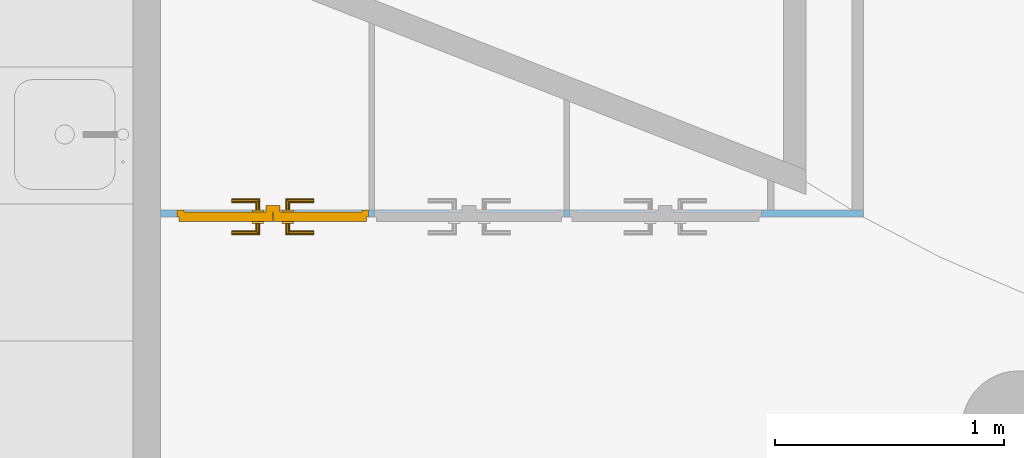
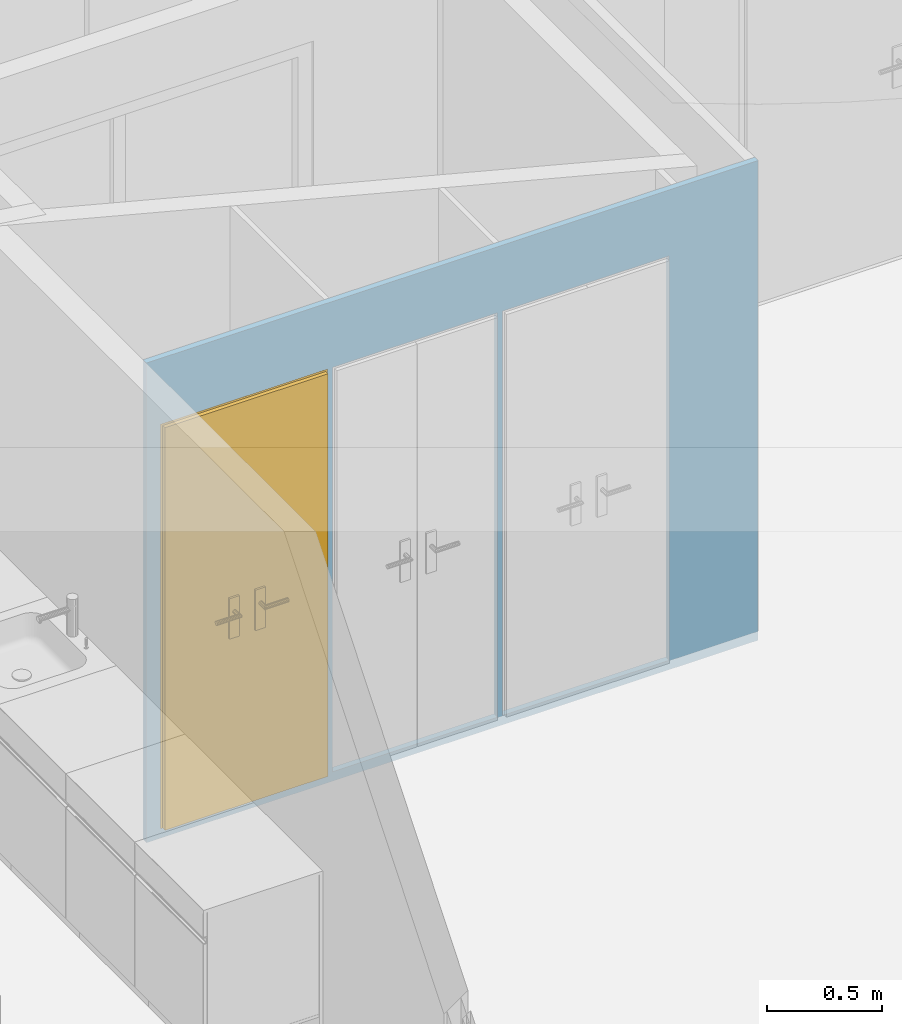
"""IFC4 building model written with IfcOpenShell, lengths in metres."""

from ifc_helpers import new_model, entity, si_unit, converted_unit, derived_unit, frame, frame_2d, origin, origin_with_axes, place, context, subcontext, project, spatial, polyline, rectangle, outline, extrude, faceted_brep, source, transform, mapped, material, layer, layer_set, layer_usage, element, fill, save


model = new_model("IFC4")

# Units and contexts
model_context = context("Model", 3, precision=1e-05, world=origin())
body_context = subcontext(model_context, "Body", "Model", "MODEL_VIEW")
ifc_project = project(units=[si_unit("LENGTHUNIT", "METRE"), si_unit("AREAUNIT", "SQUARE_METRE"), si_unit("VOLUMEUNIT", "CUBIC_METRE"), si_unit("MASSUNIT", "GRAM", prefix="KILO"), converted_unit("PLANEANGLEUNIT", "DEGREE", entity("IfcPlaneAngleMeasure", 0.0174532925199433), si_unit("PLANEANGLEUNIT", "RADIAN"), dimensions=[0, 0, 0, 0, 0, 0, 0]), derived_unit("THERMALTRANSMITTANCEUNIT", [(si_unit("POWERUNIT", "WATT"), 1), (si_unit("THERMODYNAMICTEMPERATUREUNIT", "KELVIN"), -1), (si_unit("LENGTHUNIT", "METRE"), -2)]), derived_unit("VOLUMETRICFLOWRATEUNIT", [(si_unit("LENGTHUNIT", "METRE"), 3), (converted_unit("TIMEUNIT", "hour", entity("IfcTimeMeasure", 3600.0), si_unit("TIMEUNIT", "SECOND"), dimensions=[0, 0, 1, 0, 0, 0, 0]), -1), (si_unit("LENGTHUNIT", "METRE"), -1)])], contexts=[model_context])

# Building, storeys
building_placement = place(None, origin())
building = spatial("IfcBuilding", under=ifc_project, at=building_placement, Name="HABITATGE PLURIFAMILIAR", CompositionType="ELEMENT")
storey_1_placement = place(building_placement, frame((0.0, 0.0, 3.35)))
storey_1 = spatial("IfcBuildingStorey", under=building, at=storey_1_placement, Name="PLANTA  ALTELL", CompositionType="ELEMENT", Elevation=3.35)
storey_2_placement = place(storey_1_placement, origin())
storey_2 = spatial("IfcBuildingStorey", under=storey_1, at=storey_2_placement, Name="NOU", CompositionType="PARTIAL")

# Wall, openings, door
ifc_material = material()
ifc_layer = layer(ifc_material, 0.03)
ifc_layer_set = layer_set([ifc_layer])
ifc_layer_usage = layer_usage(ifc_layer_set, "AXIS2", "POSITIVE", 0.0)
wall_placement = place(storey_2_placement, frame((406.991931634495, 22.0635846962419, -0.05)))
wall = element("IfcWall", 1, at=wall_placement, inside=storey_2, material=ifc_layer_usage, Name="Evans PA", context=body_context, shape_type="SweptSolid", body=[
    extrude(rectangle(XDim=3.07526201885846, YDim=0.03, at=frame_2d((1.53763100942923, 0.015), x_axis=(1.0, 0.0))), origin_with_axes(), (0.0, 0.0, 1.0), 2.55),
])
opening_1_placement = place(wall_placement, frame((0.935853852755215, 0.0, 0.05), z_axis=(0.0, 1.0, 0.0), x_axis=(0.0, 0.0, 1.0)))
element("IfcOpeningElement", 2, at=opening_1_placement, cuts=wall, Name="Vano de puerta PA", ObjectType="Opening", context=body_context, shape_type="SweptSolid", body=[
    extrude(outline(polyline([(2.15, 0.828330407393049), (2.15, 0.0), (0.0, 0.0), (0.0, 0.828330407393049), (2.15, 0.828330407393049)])), origin_with_axes(), (0.0, 0.0, 1.0), 0.03),
])
opening_2_placement = place(wall_placement, frame((1.78918426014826, 0.0, 0.05), z_axis=(0.0, 1.0, 0.0), x_axis=(0.0, 0.0, 1.0)))
element("IfcOpeningElement", 3, at=opening_2_placement, cuts=wall, Name="Vano de puerta PA", ObjectType="Opening", context=body_context, shape_type="SweptSolid", body=[
    extrude(outline(polyline([(2.15, 0.839188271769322), (2.15, 0.0), (0.0, 0.0), (0.0, 0.839188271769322), (2.15, 0.839188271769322)])), origin_with_axes(), (0.0, 0.0, 1.0), 0.03),
])
opening_3_placement = place(wall_placement, frame((0.0714767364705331, 0.0, 0.05), z_axis=(0.0, 1.0, 0.0), x_axis=(0.0, 0.0, 1.0)))
opening_3 = element("IfcOpeningElement", 4, at=opening_3_placement, cuts=wall, Name="Vano de puerta PA", ObjectType="Opening", context=body_context, shape_type="SweptSolid", body=[
    extrude(outline(polyline([(2.15, 0.839188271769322), (2.15, 0.0), (0.0, 0.0), (0.0, 0.839188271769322), (2.15, 0.839188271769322)])), origin_with_axes(), (0.0, 0.0, 1.0), 0.03),
])
shared_shape = source(origin_with_axes(), body_context, "Body", "Brep", [
    faceted_brep([(0.0, 0.03, 2.15), (0.0, 0.03, 0.0), (0.03, 0.03, 0.0), (0.03, 0.03, 2.15), (0.0, 0.0, 0.0), (0.0, 0.0, 2.15), (0.03, 0.0, 2.15), (0.03, 0.0, 0.0)], [[[0, 1, 2, 3]], [[4, 5, 6, 7]], [[1, 0, 5, 4]], [[2, 1, 4, 7]], [[3, 2, 7, 6]], [[0, 3, 6, 5]]], orient=[[False], [False], [False], [False], [False], [False]]),
    faceted_brep([(0.809188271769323, 0.03, 2.15), (0.809188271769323, 0.03, 0.0), (0.839188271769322, 0.03, 0.0), (0.839188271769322, 0.03, 2.15), (0.809188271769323, 0.0, 0.0), (0.809188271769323, 0.0, 2.15), (0.839188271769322, 0.0, 2.15), (0.839188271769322, 0.0, 0.0)], [[[0, 1, 2, 3]], [[4, 5, 6, 7]], [[1, 0, 5, 4]], [[2, 1, 4, 7]], [[3, 2, 7, 6]], [[0, 3, 6, 5]]], orient=[[False], [False], [False], [False], [False], [False]]),
    faceted_brep([(0.03, 0.03, 2.15), (0.03, 0.03, 2.12), (0.809188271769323, 0.03, 2.12), (0.809188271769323, 0.03, 2.15), (0.03, 0.0, 2.12), (0.03, 0.0, 2.15), (0.809188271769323, 0.0, 2.15), (0.809188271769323, 0.0, 2.12)], [[[0, 1, 2, 3]], [[4, 5, 6, 7]], [[1, 0, 5, 4]], [[2, 1, 4, 7]], [[3, 2, 7, 6]], [[0, 3, 6, 5]]], orient=[[False], [False], [False], [False], [False], [False]]),
    faceted_brep([(0.01, 0.05, 2.14), (0.01, 0.05, 0.0), (0.419094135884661, 0.05, 0.0), (0.419094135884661, 0.05, 2.14), (0.01, 0.01, 0.0), (0.01, 0.01, 2.14), (0.419094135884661, 0.01, 2.14), (0.419094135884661, 0.01, 0.0)], [[[0, 1, 2, 3]], [[4, 5, 6, 7]], [[1, 0, 5, 4]], [[2, 1, 4, 7]], [[3, 2, 7, 6]], [[0, 3, 6, 5]]], orient=[[False], [False], [False], [False], [False], [False]]),
    faceted_brep([(0.389094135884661, 0.01, 2.12), (0.389094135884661, 0.01, 0.0), (0.449094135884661, 0.01, 0.0), (0.449094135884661, 0.01, 2.12), (0.389094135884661, -0.02, 0.0), (0.389094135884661, -0.02, 2.12), (0.449094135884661, -0.02, 2.12), (0.449094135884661, -0.02, 0.0)], [[[0, 1, 2, 3]], [[4, 5, 6, 7]], [[1, 0, 5, 4]], [[2, 1, 4, 7]], [[3, 2, 7, 6]], [[0, 3, 6, 5]]], orient=[[False], [False], [False], [False], [False], [False]]),
    faceted_brep([(0.329094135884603, 0.01, 1.125), (0.329094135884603, 0.01, 0.91), (0.379094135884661, 0.01, 0.91), (0.379094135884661, 0.01, 1.125), (0.329094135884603, 0.0, 0.91), (0.329094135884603, 0.0, 1.125), (0.379094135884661, 0.0, 1.125), (0.379094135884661, 0.0, 0.91)], [[[0, 1, 2, 3]], [[4, 5, 6, 7]], [[1, 0, 5, 4]], [[2, 1, 4, 7]], [[3, 2, 7, 6]], [[0, 3, 6, 5]]], orient=[[False], [False], [False], [False], [False], [False]]),
    faceted_brep([(0.354094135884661, 0.0, 1.06), (0.349094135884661, 0.0, 1.05866025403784), (0.34543388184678, 0.0, 1.055), (0.344094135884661, 0.0, 1.05), (0.34543388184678, 0.0, 1.045), (0.349094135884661, 0.0, 1.04133974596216), (0.354094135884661, 0.0, 1.04), (0.359094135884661, 0.0, 1.04133974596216), (0.362754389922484, 0.0, 1.045), (0.364094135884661, 0.0, 1.05), (0.362754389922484, 0.0, 1.055), (0.359094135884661, 0.0, 1.05866025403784), (0.359094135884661, -0.045, 1.05866025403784), (0.354094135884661, -0.04, 1.06), (0.362754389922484, -0.0486602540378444, 1.055), (0.364094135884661, -0.05, 1.05), (0.362754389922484, -0.0486602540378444, 1.045), (0.359094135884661, -0.045, 1.04133974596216), (0.354094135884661, -0.04, 1.04), (0.349094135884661, -0.035, 1.04133974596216), (0.34543388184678, -0.0313397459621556, 1.045), (0.344094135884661, -0.03, 1.05), (0.34543388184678, -0.0313397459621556, 1.055), (0.349094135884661, -0.035, 1.05866025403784), (0.239094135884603, -0.04, 1.06), (0.239094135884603, -0.045, 1.05866025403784), (0.239094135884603, -0.0486602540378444, 1.055), (0.239094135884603, -0.05, 1.05), (0.239094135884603, -0.0486602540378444, 1.045), (0.239094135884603, -0.045, 1.04133974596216), (0.239094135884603, -0.04, 1.04), (0.239094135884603, -0.035, 1.04133974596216), (0.239094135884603, -0.0313397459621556, 1.045), (0.239094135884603, -0.03, 1.05), (0.239094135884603, -0.0313397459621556, 1.055), (0.239094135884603, -0.035, 1.05866025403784)], [[[0, 1, 2, 3, 4, 5, 6, 7, 8, 9, 10, 11]], [[0, 11, 12, 13]], [[11, 10, 14, 12]], [[10, 9, 15, 14]], [[9, 8, 16, 15]], [[8, 7, 17, 16]], [[7, 6, 18, 17]], [[6, 5, 19, 18]], [[5, 4, 20, 19]], [[4, 3, 21, 20]], [[3, 2, 22, 21]], [[2, 1, 23, 22]], [[1, 0, 13, 23]], [[24, 25, 26, 27, 28, 29, 30, 31, 32, 33, 34, 35]], [[13, 12, 25, 24]], [[12, 14, 26, 25]], [[14, 15, 27, 26]], [[15, 16, 28, 27]], [[16, 17, 29, 28]], [[17, 18, 30, 29]], [[18, 19, 31, 30]], [[19, 20, 32, 31]], [[20, 21, 33, 32]], [[21, 22, 34, 33]], [[22, 23, 35, 34]], [[23, 13, 24, 35]]], orient=[[False], [False], [False], [False], [False], [False], [False], [False], [False], [False], [False], [False], [False], [False], [False], [False], [False], [False], [False], [False], [False], [False], [False], [False], [False], [False]]),
    faceted_brep([(0.329094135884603, 0.05, 1.125), (0.379094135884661, 0.05, 1.125), (0.379094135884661, 0.05, 0.91), (0.329094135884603, 0.05, 0.91), (0.329094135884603, 0.06, 0.91), (0.379094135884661, 0.06, 0.91), (0.379094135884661, 0.06, 1.125), (0.329094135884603, 0.06, 1.125)], [[[0, 1, 2, 3]], [[4, 5, 6, 7]], [[3, 4, 7, 0]], [[2, 5, 4, 3]], [[1, 6, 5, 2]], [[0, 7, 6, 1]]], orient=[[False], [False], [False], [False], [False], [False]]),
    faceted_brep([(0.354094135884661, 0.06, 1.06), (0.359094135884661, 0.06, 1.05866025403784), (0.362754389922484, 0.06, 1.055), (0.364094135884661, 0.06, 1.05), (0.362754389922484, 0.06, 1.045), (0.359094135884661, 0.06, 1.04133974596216), (0.354094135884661, 0.06, 1.04), (0.349094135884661, 0.06, 1.04133974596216), (0.34543388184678, 0.06, 1.045), (0.344094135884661, 0.06, 1.05), (0.34543388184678, 0.06, 1.055), (0.349094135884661, 0.06, 1.05866025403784), (0.354094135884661, 0.1, 1.06), (0.359094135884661, 0.105, 1.05866025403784), (0.362754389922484, 0.108660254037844, 1.055), (0.364094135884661, 0.11, 1.05), (0.362754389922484, 0.108660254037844, 1.045), (0.359094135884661, 0.105, 1.04133974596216), (0.354094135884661, 0.1, 1.04), (0.349094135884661, 0.095, 1.04133974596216), (0.34543388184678, 0.0913397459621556, 1.045), (0.344094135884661, 0.09, 1.05), (0.34543388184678, 0.0913397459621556, 1.055), (0.349094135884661, 0.095, 1.05866025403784), (0.239094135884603, 0.1, 1.06), (0.239094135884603, 0.095, 1.05866025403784), (0.239094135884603, 0.0913397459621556, 1.055), (0.239094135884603, 0.09, 1.05), (0.239094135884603, 0.0913397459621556, 1.045), (0.239094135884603, 0.095, 1.04133974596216), (0.239094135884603, 0.1, 1.04), (0.239094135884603, 0.105, 1.04133974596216), (0.239094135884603, 0.108660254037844, 1.045), (0.239094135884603, 0.11, 1.05), (0.239094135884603, 0.108660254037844, 1.055), (0.239094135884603, 0.105, 1.05866025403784)], [[[0, 1, 2, 3, 4, 5, 6, 7, 8, 9, 10, 11]], [[0, 12, 13, 1]], [[1, 13, 14, 2]], [[2, 14, 15, 3]], [[3, 15, 16, 4]], [[4, 16, 17, 5]], [[5, 17, 18, 6]], [[6, 18, 19, 7]], [[7, 19, 20, 8]], [[8, 20, 21, 9]], [[9, 21, 22, 10]], [[10, 22, 23, 11]], [[11, 23, 12, 0]], [[24, 25, 26, 27, 28, 29, 30, 31, 32, 33, 34, 35]], [[12, 24, 35, 13]], [[13, 35, 34, 14]], [[14, 34, 33, 15]], [[15, 33, 32, 16]], [[16, 32, 31, 17]], [[17, 31, 30, 18]], [[18, 30, 29, 19]], [[19, 29, 28, 20]], [[20, 28, 27, 21]], [[21, 27, 26, 22]], [[22, 26, 25, 23]], [[23, 25, 24, 12]]], orient=[[False], [False], [False], [False], [False], [False], [False], [False], [False], [False], [False], [False], [False], [False], [False], [False], [False], [False], [False], [False], [False], [False], [False], [False], [False], [False]]),
    faceted_brep([(0.420094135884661, 0.05, 2.14), (0.420094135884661, 0.05, 0.0), (0.829188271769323, 0.05, 0.0), (0.829188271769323, 0.05, 2.14), (0.420094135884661, 0.01, 0.0), (0.420094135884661, 0.01, 2.14), (0.829188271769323, 0.01, 2.14), (0.829188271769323, 0.01, 0.0)], [[[0, 1, 2, 3]], [[4, 5, 6, 7]], [[1, 0, 5, 4]], [[2, 1, 4, 7]], [[3, 2, 7, 6]], [[0, 3, 6, 5]]], orient=[[False], [False], [False], [False], [False], [False]]),
    faceted_brep([(0.460094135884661, 0.01, 1.125), (0.460094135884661, 0.01, 0.91), (0.510094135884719, 0.01, 0.91), (0.510094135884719, 0.01, 1.125), (0.460094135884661, 0.0, 0.91), (0.460094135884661, 0.0, 1.125), (0.510094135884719, 0.0, 1.125), (0.510094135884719, 0.0, 0.91)], [[[0, 1, 2, 3]], [[4, 5, 6, 7]], [[1, 0, 5, 4]], [[2, 1, 4, 7]], [[3, 2, 7, 6]], [[0, 3, 6, 5]]], orient=[[False], [False], [False], [False], [False], [False]]),
    faceted_brep([(0.485094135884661, 0.0, 1.06), (0.480094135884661, 0.0, 1.05866025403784), (0.476433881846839, 0.0, 1.055), (0.475094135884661, 0.0, 1.05), (0.476433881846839, 0.0, 1.045), (0.480094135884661, 0.0, 1.04133974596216), (0.485094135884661, 0.0, 1.04), (0.490094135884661, 0.0, 1.04133974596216), (0.493754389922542, 0.0, 1.045), (0.495094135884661, 0.0, 1.05), (0.493754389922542, 0.0, 1.055), (0.490094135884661, 0.0, 1.05866025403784), (0.485094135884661, -0.04, 1.06), (0.480094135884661, -0.045, 1.05866025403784), (0.476433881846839, -0.0486602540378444, 1.055), (0.475094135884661, -0.05, 1.05), (0.476433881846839, -0.0486602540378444, 1.045), (0.480094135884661, -0.045, 1.04133974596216), (0.485094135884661, -0.04, 1.04), (0.490094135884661, -0.035, 1.04133974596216), (0.493754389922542, -0.0313397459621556, 1.045), (0.495094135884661, -0.03, 1.05), (0.493754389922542, -0.0313397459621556, 1.055), (0.490094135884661, -0.035, 1.05866025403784), (0.600094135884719, -0.04, 1.06), (0.600094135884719, -0.035, 1.05866025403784), (0.600094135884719, -0.0313397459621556, 1.055), (0.600094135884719, -0.03, 1.05), (0.600094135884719, -0.0313397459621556, 1.045), (0.600094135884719, -0.035, 1.04133974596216), (0.600094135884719, -0.04, 1.04), (0.600094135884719, -0.045, 1.04133974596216), (0.600094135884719, -0.0486602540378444, 1.045), (0.600094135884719, -0.05, 1.05), (0.600094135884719, -0.0486602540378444, 1.055), (0.600094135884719, -0.045, 1.05866025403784)], [[[0, 1, 2, 3, 4, 5, 6, 7, 8, 9, 10, 11]], [[0, 12, 13, 1]], [[1, 13, 14, 2]], [[2, 14, 15, 3]], [[3, 15, 16, 4]], [[4, 16, 17, 5]], [[5, 17, 18, 6]], [[6, 18, 19, 7]], [[7, 19, 20, 8]], [[8, 20, 21, 9]], [[9, 21, 22, 10]], [[10, 22, 23, 11]], [[11, 23, 12, 0]], [[24, 25, 26, 27, 28, 29, 30, 31, 32, 33, 34, 35]], [[12, 24, 35, 13]], [[13, 35, 34, 14]], [[14, 34, 33, 15]], [[15, 33, 32, 16]], [[16, 32, 31, 17]], [[17, 31, 30, 18]], [[18, 30, 29, 19]], [[19, 29, 28, 20]], [[20, 28, 27, 21]], [[21, 27, 26, 22]], [[22, 26, 25, 23]], [[23, 25, 24, 12]]], orient=[[False], [False], [False], [False], [False], [False], [False], [False], [False], [False], [False], [False], [False], [False], [False], [False], [False], [False], [False], [False], [False], [False], [False], [False], [False], [False]]),
    faceted_brep([(0.460094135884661, 0.05, 1.125), (0.510094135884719, 0.05, 1.125), (0.510094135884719, 0.05, 0.91), (0.460094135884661, 0.05, 0.91), (0.460094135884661, 0.06, 0.91), (0.510094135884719, 0.06, 0.91), (0.510094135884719, 0.06, 1.125), (0.460094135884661, 0.06, 1.125)], [[[0, 1, 2, 3]], [[4, 5, 6, 7]], [[3, 4, 7, 0]], [[2, 5, 4, 3]], [[1, 6, 5, 2]], [[0, 7, 6, 1]]], orient=[[False], [False], [False], [False], [False], [False]]),
    faceted_brep([(0.485094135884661, 0.06, 1.06), (0.490094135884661, 0.06, 1.05866025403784), (0.493754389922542, 0.06, 1.055), (0.495094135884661, 0.06, 1.05), (0.493754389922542, 0.06, 1.045), (0.490094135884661, 0.06, 1.04133974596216), (0.485094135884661, 0.06, 1.04), (0.480094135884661, 0.06, 1.04133974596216), (0.476433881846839, 0.06, 1.045), (0.475094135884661, 0.06, 1.05), (0.476433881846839, 0.06, 1.055), (0.480094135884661, 0.06, 1.05866025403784), (0.480094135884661, 0.105, 1.05866025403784), (0.485094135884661, 0.1, 1.06), (0.476433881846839, 0.108660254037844, 1.055), (0.475094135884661, 0.11, 1.05), (0.476433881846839, 0.108660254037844, 1.045), (0.480094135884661, 0.105, 1.04133974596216), (0.485094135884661, 0.1, 1.04), (0.490094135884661, 0.095, 1.04133974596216), (0.493754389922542, 0.0913397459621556, 1.045), (0.495094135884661, 0.09, 1.05), (0.493754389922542, 0.0913397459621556, 1.055), (0.490094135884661, 0.095, 1.05866025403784), (0.600094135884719, 0.1, 1.06), (0.600094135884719, 0.105, 1.05866025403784), (0.600094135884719, 0.108660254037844, 1.055), (0.600094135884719, 0.11, 1.05), (0.600094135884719, 0.108660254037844, 1.045), (0.600094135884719, 0.105, 1.04133974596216), (0.600094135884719, 0.1, 1.04), (0.600094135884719, 0.095, 1.04133974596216), (0.600094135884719, 0.0913397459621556, 1.045), (0.600094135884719, 0.09, 1.05), (0.600094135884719, 0.0913397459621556, 1.055), (0.600094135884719, 0.095, 1.05866025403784)], [[[0, 1, 2, 3, 4, 5, 6, 7, 8, 9, 10, 11]], [[0, 11, 12, 13]], [[11, 10, 14, 12]], [[10, 9, 15, 14]], [[9, 8, 16, 15]], [[8, 7, 17, 16]], [[7, 6, 18, 17]], [[6, 5, 19, 18]], [[5, 4, 20, 19]], [[4, 3, 21, 20]], [[3, 2, 22, 21]], [[2, 1, 23, 22]], [[1, 0, 13, 23]], [[24, 25, 26, 27, 28, 29, 30, 31, 32, 33, 34, 35]], [[13, 12, 25, 24]], [[12, 14, 26, 25]], [[14, 15, 27, 26]], [[15, 16, 28, 27]], [[16, 17, 29, 28]], [[17, 18, 30, 29]], [[18, 19, 31, 30]], [[19, 20, 32, 31]], [[20, 21, 33, 32]], [[21, 22, 34, 33]], [[22, 23, 35, 34]], [[23, 13, 24, 35]]], orient=[[False], [False], [False], [False], [False], [False], [False], [False], [False], [False], [False], [False], [False], [False], [False], [False], [False], [False], [False], [False], [False], [False], [False], [False], [False], [False]]),
])
door_placement = place(opening_3_placement, frame((0.0, 0.839188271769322, 0.03), z_axis=(1.0, 0.0, 0.0), x_axis=(0.0, -1.0, 0.0)))
door = element("IfcDoor", 5, at=door_placement, inside=storey_2, Name="Porta PA", OperationType="USERDEFINED", OverallHeight=2.15, OverallWidth=0.83919, PredefinedType="DOOR", context=body_context, shape_type="MappedRepresentation", body=[
    mapped(shared_shape, transform((0.0, 0.0, 0.0), x_axis=(1.0, 0.0, 0.0), y_axis=(0.0, 1.0, 0.0), z_axis=(0.0, 0.0, 1.0), scale=1.0)),
])
fill(opening_3, door)

save(model, "model.ifc")
